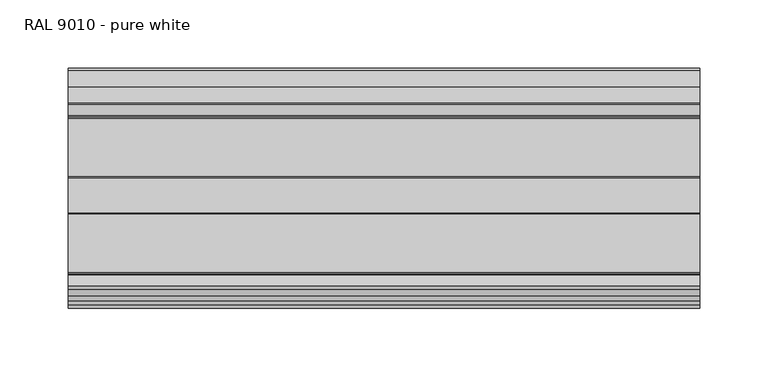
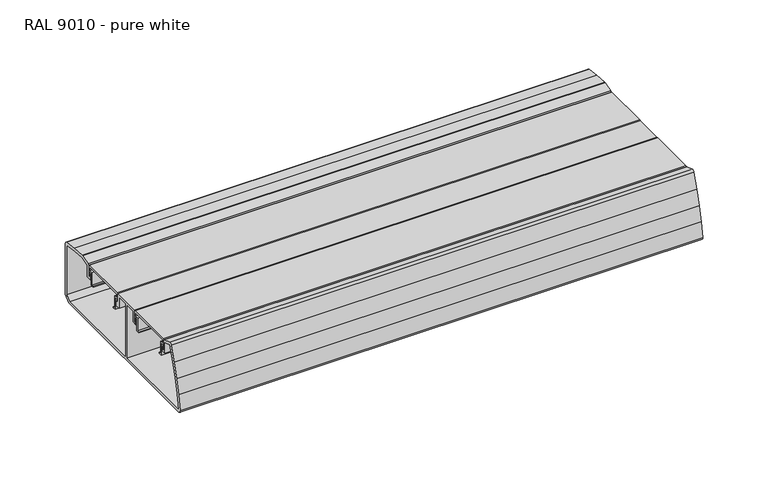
"""IFC4 building model written with IfcOpenShell, lengths in millimetres: proxy geometry, Electrical_Installations_Hager_GBD-Curved-Lid-End-Cap : RAL 9010 - pure white."""

import ifcopenshell
import ifcopenshell.guid

model = None  # the IFC model being written
_history = None  # IfcOwnerHistory: only IFC2X3 demands one
_inside = {}  # id of a spatial element -> (the spatial element, [elements in it])
_under = {}  # id of a project, library or spatial element -> (it, [spatial elements below it])
_declared = {}  # id of a project -> (the project, [libraries it declares])
_typed = {}  # id of a type object -> (the type object, [elements of that type])
_made_of = {}  # id of a material, layer set ... -> (it, [elements and type objects made of it])


def new_model(schema):
    """Start an empty IFC model of exactly this schema.

    Asked for "IFC4X3", IfcOpenShell would pick the latest addendum, in which some entities
    have other attributes; the version numbers below select the first issue.
    IFC2X3 requires an IfcOwnerHistory on every rooted entity: one is made here for all.
    """
    global model, _history
    if schema == "IFC4X3":
        model = ifcopenshell.file(schema_version=(4, 3, 0, 0))
    else:
        model = ifcopenshell.file(schema=schema)
    _inside.clear()
    _under.clear()
    _declared.clear()
    _typed.clear()
    _made_of.clear()
    _history = None
    if model.schema == "IFC2X3":
        org = make("IfcOrganization", Name="unknown")
        user = make(
            "IfcPersonAndOrganization",
            ThePerson=make("IfcPerson", FamilyName="unknown"),
            TheOrganization=org,
        )
        app = make(
            "IfcApplication",
            ApplicationDeveloper=org,
            Version="unknown",
            ApplicationFullName="unknown",
            ApplicationIdentifier="unknown",
        )
        _history = make(
            "IfcOwnerHistory",
            OwningUser=user,
            OwningApplication=app,
            ChangeAction="ADDED",
            CreationDate=0,
        )
    return model


def make(cls, **values):
    """One entity of the class cls with the attributes given. An attribute that is None is left unset."""
    return model.create_entity(
        cls, **{name: value for name, value in values.items() if value is not None}
    )


def rooted(cls, **values):
    """An entity with a GlobalId (a new one), such as an element, a storey or a relation."""
    return make(cls, GlobalId=ifcopenshell.guid.new(), OwnerHistory=_history, **values)


def si_unit(unit_type, name, prefix=None):
    """IfcSIUnit, for example si_unit("LENGTHUNIT", "METRE", prefix="MILLI")."""
    return make("IfcSIUnit", UnitType=unit_type, Prefix=prefix, Name=name)


def assignment(units):
    """IfcUnitAssignment: the units of a project."""
    return None if units is None else make("IfcUnitAssignment", Units=units)


def point(xyz):
    """IfcCartesianPoint."""
    return None if xyz is None else make("IfcCartesianPoint", Coordinates=xyz)


def direction(xyz):
    """IfcDirection."""
    return None if xyz is None else make("IfcDirection", DirectionRatios=xyz)


def frame(location, z_axis=None, x_axis=None):
    """IfcAxis2Placement3D, a coordinate frame: its origin and axes. An axis left out is left unset."""
    return make(
        "IfcAxis2Placement3D",
        Location=point(location),
        Axis=direction(z_axis),
        RefDirection=direction(x_axis),
    )


def frame_2d(location, x_axis=None):
    """IfcAxis2Placement2D, a coordinate frame in the plane: its origin and x axis."""
    return make(
        "IfcAxis2Placement2D", Location=point(location), RefDirection=direction(x_axis)
    )


def origin():
    """The frame at (0, 0, 0) with its axes left unset."""
    return frame((0.0, 0.0, 0.0))


def place(relative_to, where):
    """IfcLocalPlacement: puts the frame where relative to a parent placement (None: the world)."""
    return make(
        "IfcLocalPlacement", PlacementRelTo=relative_to, RelativePlacement=where
    )


def context(
    kind, dimensions, precision=None, world=None, true_north=None, identifier=None
):
    """IfcGeometricRepresentationContext, for example the 3D "Model" context."""
    return make(
        "IfcGeometricRepresentationContext",
        ContextIdentifier=identifier,
        ContextType=kind,
        CoordinateSpaceDimension=dimensions,
        Precision=precision,
        WorldCoordinateSystem=world,
        TrueNorth=true_north,
    )


def project(units=None, contexts=None):
    """IfcProject with its units and contexts."""
    return rooted(
        "IfcProject",
        Name="project",
        RepresentationContexts=contexts,
        UnitsInContext=assignment(units),
    )


def spatial(cls, under=None, at=None, **own):
    """A site, building, storey or space (cls), placed at a placement, below another one or the project."""
    s = rooted(cls, ObjectPlacement=at, **own)
    if under is not None:
        _under.setdefault(under.id(), (under, []))[1].append(s)
    return s


def polyline(points):
    """IfcPolyline through the points."""
    return make("IfcPolyline", Points=[point(p) for p in points])


def circle_curve(where, radius):
    """IfcCircle in the frame where."""
    return make("IfcCircle", Position=where, Radius=radius)


def trimmed(basis, trim1, trim2, sense, master):
    """IfcTrimmedCurve: the piece of a basis curve between two trims."""
    return make(
        "IfcTrimmedCurve",
        BasisCurve=basis,
        Trim1=trim1,
        Trim2=trim2,
        SenseAgreement=sense,
        MasterRepresentation=master,
    )


def segment(curve, same_sense, transition):
    """IfcCompositeCurveSegment."""
    return make(
        "IfcCompositeCurveSegment",
        Transition=transition,
        SameSense=same_sense,
        ParentCurve=curve,
    )


def composite_curve(segments, self_intersect=None):
    """IfcCompositeCurve: segments joined end to end."""
    return make("IfcCompositeCurve", Segments=segments, SelfIntersect=self_intersect)


def outline(outer, holes=None, kind="AREA"):
    """IfcArbitraryClosedProfileDef: a profile drawn as a closed curve; with holes, ...WithVoids."""
    if holes is None:
        return make("IfcArbitraryClosedProfileDef", ProfileType=kind, OuterCurve=outer)
    return make(
        "IfcArbitraryProfileDefWithVoids",
        ProfileType=kind,
        OuterCurve=outer,
        InnerCurves=holes,
    )


def extrude(swept, where, along, depth):
    """IfcExtrudedAreaSolid: the profile swept, set in the frame where, extruded along a direction by depth."""
    return make(
        "IfcExtrudedAreaSolid",
        SweptArea=swept,
        Position=where,
        ExtrudedDirection=direction(along),
        Depth=depth,
    )


def shape(context_of_items, identifier, shape_type, items):
    """IfcShapeRepresentation: the items that make up one representation, for example the "Body"."""
    return make(
        "IfcShapeRepresentation",
        ContextOfItems=context_of_items,
        RepresentationIdentifier=identifier,
        RepresentationType=shape_type,
        Items=items,
    )


def source(mapping_origin, context_of_items, identifier, shape_type, items):
    """IfcRepresentationMap: a shape defined once, which mapped items show again and again."""
    return make(
        "IfcRepresentationMap",
        MappingOrigin=mapping_origin,
        MappedRepresentation=shape(context_of_items, identifier, shape_type, items),
    )


def transform(
    local_origin,
    x_axis=None,
    y_axis=None,
    z_axis=None,
    scale=None,
    scale2=None,
    scale3=None,
    uniform=True,
):
    """IfcCartesianTransformationOperator3D, or its non-uniform kind. x_axis, y_axis, z_axis: its Axis1, 2, 3."""
    if uniform:
        return make(
            "IfcCartesianTransformationOperator3D",
            Axis1=direction(x_axis),
            Axis2=direction(y_axis),
            LocalOrigin=point(local_origin),
            Scale=scale,
            Axis3=direction(z_axis),
        )
    return make(
        "IfcCartesianTransformationOperator3DnonUniform",
        Axis1=direction(x_axis),
        Axis2=direction(y_axis),
        LocalOrigin=point(local_origin),
        Scale=scale,
        Axis3=direction(z_axis),
        Scale2=scale2,
        Scale3=scale3,
    )


def mapped(mapping_source, mapping_target):
    """IfcMappedItem: shows the shape of a source again, moved by a transform."""
    return make(
        "IfcMappedItem", MappingSource=mapping_source, MappingTarget=mapping_target
    )


def made_of(thing, what):
    """Note that an element or type object is made of a material, layer set ...; save() writes the relation."""
    if what is not None:
        _made_of.setdefault(what.id(), (what, []))[1].append(thing)
    return thing


def element(
    cls,
    number,
    at=None,
    inside=None,
    cuts=None,
    type_object=None,
    material=None,
    context=None,
    identifier="Body",
    shape_type=None,
    held_by="IfcProductDefinitionShape",
    body=None,
    shapes=None,
    **own,
):
    """One element of the class cls, such as IfcWall. Its Tag is "e" and its number.

    at: its placement. inside: the storey or other place that contains it. cuts: it is an
    opening in that element (IfcRelVoidsElement). A single representation is given by context,
    identifier, shape_type and body (its items); several are given by shapes. held_by: the class
    of the entity that holds the representations. save() writes the other relations.
    """
    e = rooted(cls, Tag="e%d" % number, ObjectPlacement=at, **own)
    if body is not None:
        shapes = [shape(context, identifier, shape_type, body)]
    if shapes is not None:
        e.Representation = make(held_by, Representations=shapes)
    if inside is not None:
        _inside.setdefault(inside.id(), (inside, []))[1].append(e)
    if cuts is not None:
        rooted(
            "IfcRelVoidsElement", RelatingBuildingElement=cuts, RelatedOpeningElement=e
        )
    if type_object is not None:
        _typed.setdefault(type_object.id(), (type_object, []))[1].append(e)
    return made_of(e, material)


def aggregate(whole, parts):
    """IfcRelAggregates: a whole, such as a stair, and the parts it consists of."""
    return rooted("IfcRelAggregates", RelatingObject=whole, RelatedObjects=parts)


def save(model, path):
    """Write the relations noted so far, then the file.

    IfcRelAggregates (storeys below a building ...), IfcRelContainedInSpatialStructure (elements
    in a storey), IfcRelDefinesByType, IfcRelAssociatesMaterial and IfcRelDeclares: one each for
    every whole, place, type object, material and project.
    """
    for whole, parts in _under.values():
        aggregate(whole, parts)
    for where, things in _inside.values():
        rooted(
            "IfcRelContainedInSpatialStructure",
            RelatedElements=things,
            RelatingStructure=where,
        )
    for kind, things in _typed.values():
        rooted("IfcRelDefinesByType", RelatedObjects=things, RelatingType=kind)
    for what, things in _made_of.values():
        rooted("IfcRelAssociatesMaterial", RelatedObjects=things, RelatingMaterial=what)
    for by, libraries in _declared.values():
        rooted("IfcRelDeclares", RelatingContext=by, RelatedDefinitions=libraries)
    model.write(path)


def ral_9010_pure_white_7a2c25fb(model_context):
    return source(origin(), model_context, "Body", "SweptSolid", [
        extrude(outline(composite_curve([segment(polyline([(-85.2368553, -25.0), (-6.25, -25.0), (-6.25, 25.0), (-15.95, 25.0), (-15.95, 14.96875), (-20.25, 14.96875), (-20.25, 18.7637258), (-19.25, 18.7637258), (-19.25, 16.3), (-17.75, 16.3), (-17.75, 27.0), (7.25, 27.0), (7.25, 16.3), (8.75, 16.3), (8.75, 18.7441115), (9.75, 18.7441115), (9.75, 14.5), (5.45, 14.5), (5.45, 25.0), (-4.25, 25.0), (-4.25, -25.0), (81.2473088, -25.0), (85.2, -21.0473088), (85.2, 25.0790901), (73.4084992, 26.7822965), (61.8792753, 27.7103781), (54.05, 25.1664923), (54.05, 14.5), (49.75, 14.5), (49.75, 18.7391101), (50.75, 18.7391101), (50.75, 16.3), (52.25, 16.3), (52.25, 26.2703589)]), True, "CONTINUOUS"), segment(trimmed(circle_curve(frame_2d((53.2542649, 26.2703589)), 1.0042649), [point((52.25, 26.2703589))], [point((52.94393, 27.2254715))], False, "CARTESIAN"), True, "CONTINUOUS"), segment(polyline([(52.94393, 27.2254715), (61.1647105, 29.896565)]), True, "CONTINUOUS"), segment(trimmed(circle_curve(frame_2d((61.8535718, 27.776468)), 2.229202), [point((61.1647105, 29.896565))], [point((62.0324399, 29.9984823))], False, "CARTESIAN"), True, "CONTINUOUS"), segment(polyline([(62.0324399, 29.9984823), (73.960524, 29.0382932), (85.7542621, 27.3347636)]), True, "CONTINUOUS"), segment(trimmed(circle_curve(frame_2d((85.4630616, 25.3187476)), 2.0369384), [point((85.7542621, 27.3347636))], [point((87.5, 25.3187476))], False, "CARTESIAN"), True, "CONTINUOUS"), segment(polyline([(87.5, 25.3187476), (87.5, -22.0), (82.5, -27.0), (-85.4371356, -27.0)]), True, "CONTINUOUS"), segment(trimmed(circle_curve(frame_2d((-85.4371356, -24.9109785)), 2.0890215), [point((-85.4371356, -27.0))], [point((-87.5045544, -24.6113283))], False, "CARTESIAN"), True, "CONTINUOUS"), segment(polyline([(-87.5045544, -24.6113283), (-85.4928777, -10.7318848), (-82.665273, 2.5001298), (-78.9366987, 15.5032139), (-74.2325269, 28.6175358)]), True, "CONTINUOUS"), segment(trimmed(circle_curve(frame_2d((-72.2816269, 27.9177383)), 2.0726137), [point((-74.2325269, 28.6175358))], [point((-71.641154, 29.8889111))], False, "CARTESIAN"), True, "CONTINUOUS"), segment(polyline([(-71.641154, 29.8889111), (-63.6327057, 27.2868085)]), True, "CONTINUOUS"), segment(trimmed(circle_curve(frame_2d((-63.9575866, 26.286928)), 1.0513366), [point((-63.6327057, 27.2868085))], [point((-62.90625, 26.286928))], False, "CARTESIAN"), True, "CONTINUOUS"), segment(polyline([(-62.90625, 26.286928), (-62.90625, 16.3), (-61.25, 16.3), (-61.25, 18.7177382), (-60.25, 18.7177382), (-60.25, 14.96875), (-64.55, 14.96875), (-64.55, 25.1664923), (-72.1420805, 27.6333088), (-76.7464574, 14.7971958), (-80.4325779, 1.9421659), (-83.2276507, -11.1376133), (-85.2368553, -25.0)]), True, "CONTINUOUS")], self_intersect=False)), frame((0.0, 0.0, 0.0), z_axis=(1.0, 0.0, 0.0), x_axis=(0.0, 1.0, 0.0)), (0.0, 0.0, 1.0), 460.8327165),
        extrude(outline(composite_curve([segment(polyline([(-19.317297, 25.7013932), (-61.217297, 25.7013932), (-61.217297, 22.4013932), (-57.767297, 22.4013932), (-57.767297, 10.8013932), (-55.867297, 10.8013932), (-55.867297, 10.0013932), (-58.767297, 10.0013932), (-58.767297, 21.4013932), (-61.5204385, 21.4013932), (-61.5204385, 17.0930522), (-62.5219845, 17.0930522), (-62.5219845, 26.2097868)]), True, "CONTINUOUS"), segment(trimmed(circle_curve(frame_2d((-61.6120226, 26.2097868)), 0.9099619), [point((-62.5219845, 26.2097868))], [point((-61.6120226, 27.1197487))], False, "CARTESIAN"), True, "CONTINUOUS"), segment(polyline([(-61.6120226, 27.1197487), (-19.1379774, 27.1197487)]), True, "CONTINUOUS"), segment(trimmed(circle_curve(frame_2d((-19.1379774, 26.1115683)), 1.0081804), [point((-19.1379774, 27.1197487))], [point((-18.129797, 26.1115683))], False, "CARTESIAN"), True, "CONTINUOUS"), segment(polyline([(-18.129797, 26.1115683), (-18.129797, 17.0930522), (-19.0141556, 17.0930522), (-19.0141556, 21.4013932), (-21.767297, 21.4013932), (-21.767297, 10.0013932), (-24.667297, 10.0013932), (-24.667297, 10.8013932), (-22.767297, 10.8013932), (-22.767297, 22.4013932), (-19.317297, 22.4013932), (-19.317297, 25.7013932)]), True, "CONTINUOUS")], self_intersect=False)), frame((0.0, 0.0, 0.0), z_axis=(1.0, 0.0, 0.0), x_axis=(0.0, 1.0, 0.0)), (0.0, 0.0, 1.0), 460.8327165),
        extrude(outline(composite_curve([segment(polyline([(50.7405963, 25.7013932), (8.8405963, 25.7013932), (8.8405963, 22.4013932), (12.2905963, 22.4013932), (12.2905963, 10.8013932), (14.1905963, 10.8013932), (14.1905963, 10.0013932), (11.2905963, 10.0013932), (11.2905963, 21.4013932), (8.5374548, 21.4013932), (8.5374548, 17.0930522), (7.5359088, 17.0930522), (7.5359088, 26.2097868)]), True, "CONTINUOUS"), segment(trimmed(circle_curve(frame_2d((8.4458707, 26.2097868)), 0.9099619), [point((7.5359088, 26.2097868))], [point((8.4458707, 27.1197487))], False, "CARTESIAN"), True, "CONTINUOUS"), segment(polyline([(8.4458707, 27.1197487), (50.9199159, 27.1197487)]), True, "CONTINUOUS"), segment(trimmed(circle_curve(frame_2d((50.9199159, 26.1115683)), 1.0081804), [point((50.9199159, 27.1197487))], [point((51.9280963, 26.1115683))], False, "CARTESIAN"), True, "CONTINUOUS"), segment(polyline([(51.9280963, 26.1115683), (51.9280963, 17.0930522), (51.0437378, 17.0930522), (51.0437378, 21.4013932), (48.2905963, 21.4013932), (48.2905963, 10.0013932), (45.3905963, 10.0013932), (45.3905963, 10.8013932), (47.2905963, 10.8013932), (47.2905963, 22.4013932), (50.7405963, 22.4013932), (50.7405963, 25.7013932)]), True, "CONTINUOUS")], self_intersect=False)), frame((0.0, 0.0, 0.0), z_axis=(1.0, 0.0, 0.0), x_axis=(0.0, 1.0, 0.0)), (0.0, 0.0, 1.0), 460.8327165),
    ])


if __name__ == "__main__":
    model = new_model("IFC4")
    model_context = context("Model", 3, world=origin())
    ifc_project = project(units=[si_unit("LENGTHUNIT", "METRE", prefix="MILLI")], contexts=[model_context])
    site = spatial("IfcSite", under=ifc_project)
    building = spatial("IfcBuilding", under=site)
    placement = place(None, origin())
    ral_9010_pure_white_shape = ral_9010_pure_white_7a2c25fb(model_context)
    element("IfcBuildingElementProxy", 1, Name="Electrical_Installations_Hager_GBD-Curved-Lid-End-Cap : RAL 9010 - pure white", ObjectType="Electrical_Installations_Hager_GBD-Curved-Lid-End-Cap : RAL 9010 - pure white", at=placement, inside=building, context=model_context, shape_type="MappedRepresentation", body=[
        mapped(ral_9010_pure_white_shape, transform((0.0, 0.0, 0.0), x_axis=(1.0, 0.0, 0.0), y_axis=(0.0, 1.0, 0.0), z_axis=(0.0, 0.0, 1.0))),
    ])
    save(model, "model.ifc")
